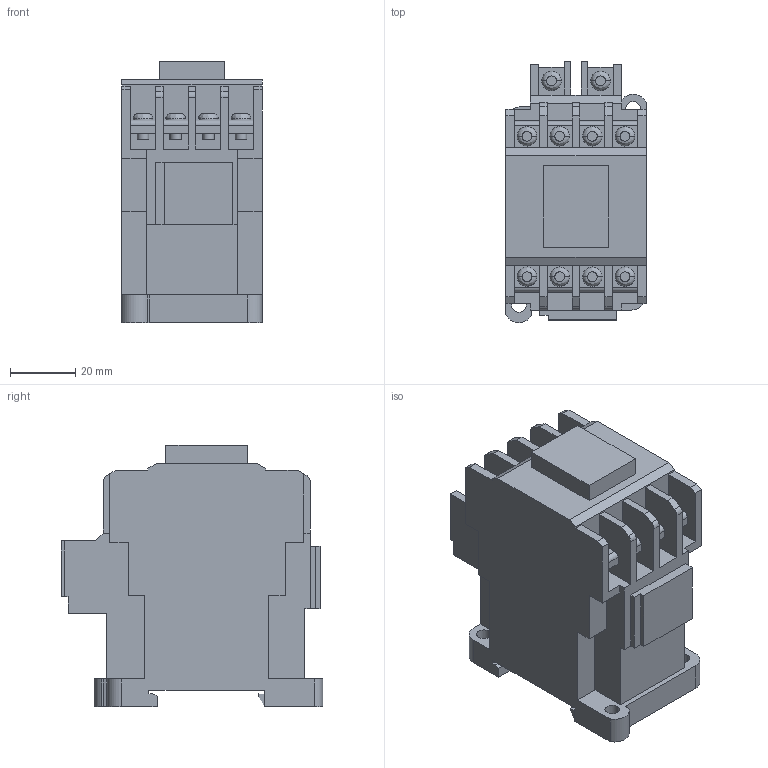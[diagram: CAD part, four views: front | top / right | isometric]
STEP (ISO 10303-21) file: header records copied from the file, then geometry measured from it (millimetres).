
FILE_DESCRIPTION (( 'STEP AP214' ), '1' );
FILE_NAME ('SC-03.STEP', '2013-10-30T06:31:11', ( '川崎工場' ), ( '富士電機システムズ株式会社' ), 'SwSTEP 2.0', 'SolidWorks 2005204', '' );
FILE_SCHEMA (( 'AUTOMOTIVE_DESIGN' ));
Length unit declared in the file: millimetre
Products named in the file (22): Screw_M3.5_L6_5_蹬怮椔; Screw_M3.5_L6_9_蹬怮椔; Screw_M3.5_L6_10_蹬怮椔; Screw_M3.5_L6_7_蹬怮椔; Screw_M3.5_L6_2_蹬怮椔; Screw_M3.5_L6_3_蹬怮椔; Screw_M3.5_L6_8_蹬怮椔; Screw_M3.5_L6_1_蹬怮椔; Screw_M3.5_L6_4_蹬怮椔; SC-03_PLATE_COIL_2_蹬怮椔; SC-03_PLATE_MAIN_8_蹬怮椔; SC-03; SC-03_PLATE_MAIN_5_蹬怮椔; SC-03_PLATE_MAIN_6_蹬怮椔; SC-03_PLATE_COIL_1_蹬怮椔; SC-03_PLATE_MAIN_2_蹬怮椔; SC-03_CASE_蹬怮椔; SC-03_PLATE_MAIN_1_蹬怮椔; SC-03_PLATE_MAIN_7_蹬怮椔; Screw_M3.5_L6_6_蹬怮椔; SC-03_PLATE_MAIN_4_蹬怮椔; SC-03_PLATE_MAIN_3_蹬怮椔
Assembly tree (21 placements, depth 2):
  SC-03
    SC-03_PLATE_MAIN_7_蹬怮椔
    SC-03_PLATE_COIL_1_蹬怮椔
    Screw_M3.5_L6_9_蹬怮椔
    SC-03_PLATE_MAIN_5_蹬怮椔
    SC-03_PLATE_MAIN_4_蹬怮椔
    SC-03_PLATE_MAIN_2_蹬怮椔
    SC-03_CASE_蹬怮椔
    Screw_M3.5_L6_8_蹬怮椔
    Screw_M3.5_L6_3_蹬怮椔
    SC-03_PLATE_MAIN_3_蹬怮椔
    SC-03_PLATE_MAIN_1_蹬怮椔
    Screw_M3.5_L6_5_蹬怮椔
    Screw_M3.5_L6_10_蹬怮椔
    SC-03_PLATE_COIL_2_蹬怮椔
    Screw_M3.5_L6_2_蹬怮椔
    SC-03_PLATE_MAIN_8_蹬怮椔
    Screw_M3.5_L6_1_蹬怮椔
    SC-03_PLATE_MAIN_6_蹬怮椔
    Screw_M3.5_L6_4_蹬怮椔
    Screw_M3.5_L6_7_蹬怮椔
    Screw_M3.5_L6_6_蹬怮椔
Bounding box: 43 x 79.98 x 80 mm (x, y, z)
Volume: 169969.5 mm3; surface area: 32516.2 mm2
Topology: 21 solids, 21 shells, 365 faces, 910 edges, 598 vertices
Faces by surface type: plane 249, cylinder 96, bspline 20
Entity records: 15671 total; most frequent: CARTESIAN_POINT 2287, DIRECTION 1830, ORIENTED_EDGE 1820, EDGE_CURVE 910, VECTOR 668, LINE 668, VERTEX_POINT 598, AXIS2_PLACEMENT_3D 581
